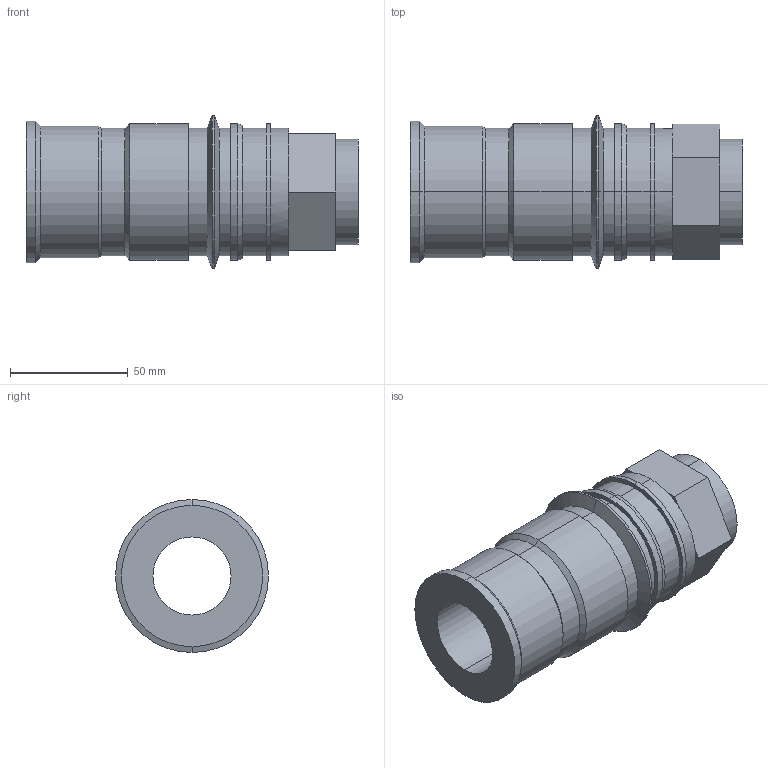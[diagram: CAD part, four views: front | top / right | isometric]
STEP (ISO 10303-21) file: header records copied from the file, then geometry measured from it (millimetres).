
FILE_DESCRIPTION (( 'STEP AP214' ), '1' );
FILE_NAME ('BR601.25 DGB 33.STEP', '2020-12-02T13:16:51', ( '' ), ( '' ), 'SwSTEP 2.0', 'SolidWorks 2018', '' );
FILE_SCHEMA (( 'AUTOMOTIVE_DESIGN' ));
Length unit declared in the file: millimetre
Products named in the file (1): BR601.25 DGB 33
Bounding box: 141 x 64.99 x 64.99 mm (x, y, z)
Volume: 213460.5 mm3; surface area: 46126.3 mm2
Topology: 1 solids, 1 shells, 64 faces, 134 edges, 78 vertices
Faces by surface type: cylinder 26, plane 26, cone 12
Entity records: 1730 total; most frequent: DIRECTION 330, CARTESIAN_POINT 277, ORIENTED_EDGE 268, EDGE_CURVE 134, AXIS2_PLACEMENT_3D 131, VERTEX_POINT 78, EDGE_LOOP 72, VECTOR 68
